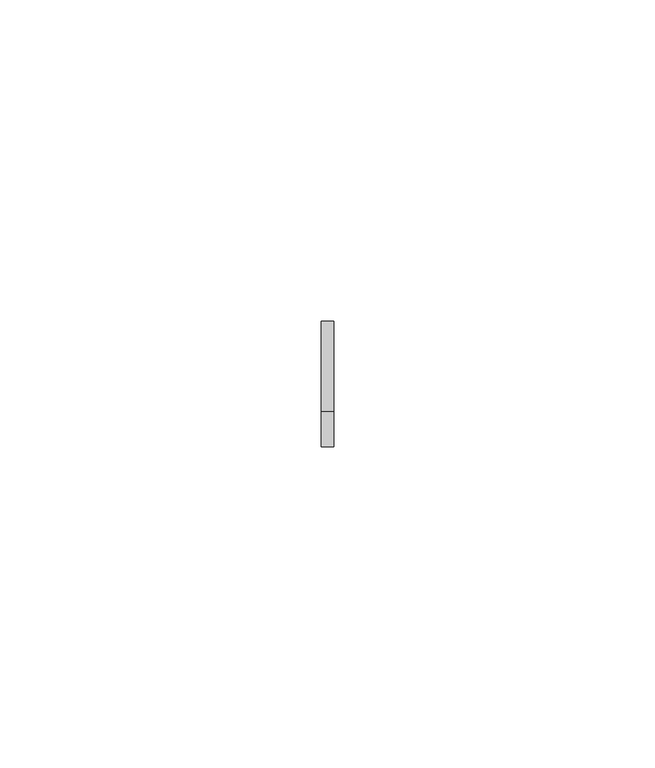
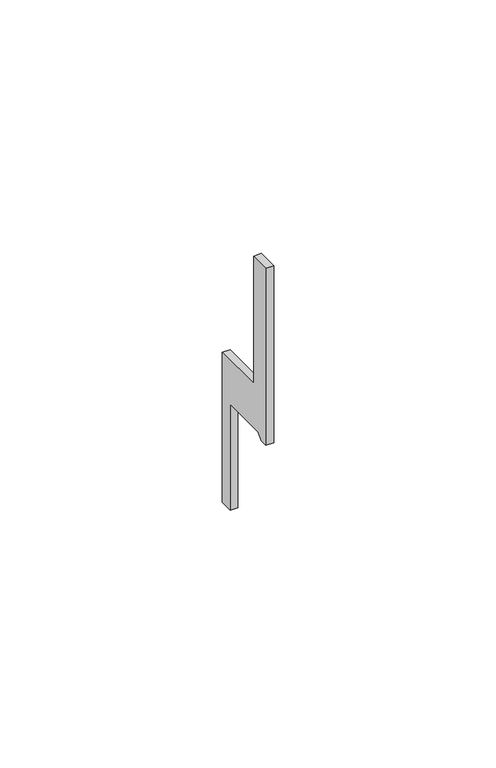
"""IFC4 building model written with IfcOpenShell, lengths in millimetres: proxy geometry, Odbojniki - OPW35 : Odbojniki - OPW35."""

import ifcopenshell
import ifcopenshell.guid

model = None  # the IFC model being written
_history = None  # IfcOwnerHistory: only IFC2X3 demands one
_inside = {}  # id of a spatial element -> (the spatial element, [elements in it])
_under = {}  # id of a project, library or spatial element -> (it, [spatial elements below it])
_declared = {}  # id of a project -> (the project, [libraries it declares])
_typed = {}  # id of a type object -> (the type object, [elements of that type])
_made_of = {}  # id of a material, layer set ... -> (it, [elements and type objects made of it])


def new_model(schema):
    """Start an empty IFC model of exactly this schema.

    Asked for "IFC4X3", IfcOpenShell would pick the latest addendum, in which some entities
    have other attributes; the version numbers below select the first issue.
    IFC2X3 requires an IfcOwnerHistory on every rooted entity: one is made here for all.
    """
    global model, _history
    if schema == "IFC4X3":
        model = ifcopenshell.file(schema_version=(4, 3, 0, 0))
    else:
        model = ifcopenshell.file(schema=schema)
    _inside.clear()
    _under.clear()
    _declared.clear()
    _typed.clear()
    _made_of.clear()
    _history = None
    if model.schema == "IFC2X3":
        org = make("IfcOrganization", Name="unknown")
        user = make(
            "IfcPersonAndOrganization",
            ThePerson=make("IfcPerson", FamilyName="unknown"),
            TheOrganization=org,
        )
        app = make(
            "IfcApplication",
            ApplicationDeveloper=org,
            Version="unknown",
            ApplicationFullName="unknown",
            ApplicationIdentifier="unknown",
        )
        _history = make(
            "IfcOwnerHistory",
            OwningUser=user,
            OwningApplication=app,
            ChangeAction="ADDED",
            CreationDate=0,
        )
    return model


def make(cls, **values):
    """One entity of the class cls with the attributes given. An attribute that is None is left unset."""
    return model.create_entity(
        cls, **{name: value for name, value in values.items() if value is not None}
    )


def rooted(cls, **values):
    """An entity with a GlobalId (a new one), such as an element, a storey or a relation."""
    return make(cls, GlobalId=ifcopenshell.guid.new(), OwnerHistory=_history, **values)


def si_unit(unit_type, name, prefix=None):
    """IfcSIUnit, for example si_unit("LENGTHUNIT", "METRE", prefix="MILLI")."""
    return make("IfcSIUnit", UnitType=unit_type, Prefix=prefix, Name=name)


def assignment(units):
    """IfcUnitAssignment: the units of a project."""
    return None if units is None else make("IfcUnitAssignment", Units=units)


def point(xyz):
    """IfcCartesianPoint."""
    return None if xyz is None else make("IfcCartesianPoint", Coordinates=xyz)


def direction(xyz):
    """IfcDirection."""
    return None if xyz is None else make("IfcDirection", DirectionRatios=xyz)


def frame(location, z_axis=None, x_axis=None):
    """IfcAxis2Placement3D, a coordinate frame: its origin and axes. An axis left out is left unset."""
    return make(
        "IfcAxis2Placement3D",
        Location=point(location),
        Axis=direction(z_axis),
        RefDirection=direction(x_axis),
    )


def origin():
    """The frame at (0, 0, 0) with its axes left unset."""
    return frame((0.0, 0.0, 0.0))


def place(relative_to, where):
    """IfcLocalPlacement: puts the frame where relative to a parent placement (None: the world)."""
    return make(
        "IfcLocalPlacement", PlacementRelTo=relative_to, RelativePlacement=where
    )


def context(
    kind, dimensions, precision=None, world=None, true_north=None, identifier=None
):
    """IfcGeometricRepresentationContext, for example the 3D "Model" context."""
    return make(
        "IfcGeometricRepresentationContext",
        ContextIdentifier=identifier,
        ContextType=kind,
        CoordinateSpaceDimension=dimensions,
        Precision=precision,
        WorldCoordinateSystem=world,
        TrueNorth=true_north,
    )


def project(units=None, contexts=None):
    """IfcProject with its units and contexts."""
    return rooted(
        "IfcProject",
        Name="project",
        RepresentationContexts=contexts,
        UnitsInContext=assignment(units),
    )


def spatial(cls, under=None, at=None, **own):
    """A site, building, storey or space (cls), placed at a placement, below another one or the project."""
    s = rooted(cls, ObjectPlacement=at, **own)
    if under is not None:
        _under.setdefault(under.id(), (under, []))[1].append(s)
    return s


def polyline(points):
    """IfcPolyline through the points."""
    return make("IfcPolyline", Points=[point(p) for p in points])


def outline(outer, holes=None, kind="AREA"):
    """IfcArbitraryClosedProfileDef: a profile drawn as a closed curve; with holes, ...WithVoids."""
    if holes is None:
        return make("IfcArbitraryClosedProfileDef", ProfileType=kind, OuterCurve=outer)
    return make(
        "IfcArbitraryProfileDefWithVoids",
        ProfileType=kind,
        OuterCurve=outer,
        InnerCurves=holes,
    )


def extrude(swept, where, along, depth):
    """IfcExtrudedAreaSolid: the profile swept, set in the frame where, extruded along a direction by depth."""
    return make(
        "IfcExtrudedAreaSolid",
        SweptArea=swept,
        Position=where,
        ExtrudedDirection=direction(along),
        Depth=depth,
    )


def shape(context_of_items, identifier, shape_type, items):
    """IfcShapeRepresentation: the items that make up one representation, for example the "Body"."""
    return make(
        "IfcShapeRepresentation",
        ContextOfItems=context_of_items,
        RepresentationIdentifier=identifier,
        RepresentationType=shape_type,
        Items=items,
    )


def source(mapping_origin, context_of_items, identifier, shape_type, items):
    """IfcRepresentationMap: a shape defined once, which mapped items show again and again."""
    return make(
        "IfcRepresentationMap",
        MappingOrigin=mapping_origin,
        MappedRepresentation=shape(context_of_items, identifier, shape_type, items),
    )


def transform(
    local_origin,
    x_axis=None,
    y_axis=None,
    z_axis=None,
    scale=None,
    scale2=None,
    scale3=None,
    uniform=True,
):
    """IfcCartesianTransformationOperator3D, or its non-uniform kind. x_axis, y_axis, z_axis: its Axis1, 2, 3."""
    if uniform:
        return make(
            "IfcCartesianTransformationOperator3D",
            Axis1=direction(x_axis),
            Axis2=direction(y_axis),
            LocalOrigin=point(local_origin),
            Scale=scale,
            Axis3=direction(z_axis),
        )
    return make(
        "IfcCartesianTransformationOperator3DnonUniform",
        Axis1=direction(x_axis),
        Axis2=direction(y_axis),
        LocalOrigin=point(local_origin),
        Scale=scale,
        Axis3=direction(z_axis),
        Scale2=scale2,
        Scale3=scale3,
    )


def mapped(mapping_source, mapping_target):
    """IfcMappedItem: shows the shape of a source again, moved by a transform."""
    return make(
        "IfcMappedItem", MappingSource=mapping_source, MappingTarget=mapping_target
    )


def made_of(thing, what):
    """Note that an element or type object is made of a material, layer set ...; save() writes the relation."""
    if what is not None:
        _made_of.setdefault(what.id(), (what, []))[1].append(thing)
    return thing


def element(
    cls,
    number,
    at=None,
    inside=None,
    cuts=None,
    type_object=None,
    material=None,
    context=None,
    identifier="Body",
    shape_type=None,
    held_by="IfcProductDefinitionShape",
    body=None,
    shapes=None,
    **own,
):
    """One element of the class cls, such as IfcWall. Its Tag is "e" and its number.

    at: its placement. inside: the storey or other place that contains it. cuts: it is an
    opening in that element (IfcRelVoidsElement). A single representation is given by context,
    identifier, shape_type and body (its items); several are given by shapes. held_by: the class
    of the entity that holds the representations. save() writes the other relations.
    """
    e = rooted(cls, Tag="e%d" % number, ObjectPlacement=at, **own)
    if body is not None:
        shapes = [shape(context, identifier, shape_type, body)]
    if shapes is not None:
        e.Representation = make(held_by, Representations=shapes)
    if inside is not None:
        _inside.setdefault(inside.id(), (inside, []))[1].append(e)
    if cuts is not None:
        rooted(
            "IfcRelVoidsElement", RelatingBuildingElement=cuts, RelatedOpeningElement=e
        )
    if type_object is not None:
        _typed.setdefault(type_object.id(), (type_object, []))[1].append(e)
    return made_of(e, material)


def aggregate(whole, parts):
    """IfcRelAggregates: a whole, such as a stair, and the parts it consists of."""
    return rooted("IfcRelAggregates", RelatingObject=whole, RelatedObjects=parts)


def save(model, path):
    """Write the relations noted so far, then the file.

    IfcRelAggregates (storeys below a building ...), IfcRelContainedInSpatialStructure (elements
    in a storey), IfcRelDefinesByType, IfcRelAssociatesMaterial and IfcRelDeclares: one each for
    every whole, place, type object, material and project.
    """
    for whole, parts in _under.values():
        aggregate(whole, parts)
    for where, things in _inside.values():
        rooted(
            "IfcRelContainedInSpatialStructure",
            RelatedElements=things,
            RelatingStructure=where,
        )
    for kind, things in _typed.values():
        rooted("IfcRelDefinesByType", RelatedObjects=things, RelatingType=kind)
    for what, things in _made_of.values():
        rooted("IfcRelAssociatesMaterial", RelatedObjects=things, RelatingMaterial=what)
    for by, libraries in _declared.values():
        rooted("IfcRelDeclares", RelatingContext=by, RelatedDefinitions=libraries)
    model.write(path)


def generic_models_228bb337(model_context):
    return source(origin(), model_context, "Body", "SweptSolid", [
        extrude(outline(polyline([(16.5452071, 15.1230145), (16.5452071, -26.0769855), (13.0452071, -26.0769855), (13.0452071, 2.9694613), (0.4452071, 2.9694613), (-1.054793, 1.4694612), (-3.054793, 1.4694612), (-3.054793, 50.1230145), (2.4452073, 50.1230145), (2.4452073, 15.1230145), (16.5452071, 15.1230145)])), frame((-3.0, 0.0, 0.0), z_axis=(1.0, 0.0, 0.0), x_axis=(0.0, 1.0, 0.0)), (0.0, 0.0, 1.0), 2.0),
    ])


if __name__ == "__main__":
    model = new_model("IFC4")
    model_context = context("Model", 3, world=origin())
    ifc_project = project(units=[si_unit("LENGTHUNIT", "METRE", prefix="MILLI")], contexts=[model_context])
    site = spatial("IfcSite", under=ifc_project)
    building = spatial("IfcBuilding", under=site)
    placement = place(None, origin())
    generic_models_shape = generic_models_228bb337(model_context)
    element("IfcBuildingElementProxy", 1, Name="Odbojniki - OPW35 : Odbojniki - OPW35", ObjectType="Odbojniki - OPW35 : Odbojniki - OPW35", at=placement, inside=building, context=model_context, shape_type="MappedRepresentation", body=[
        mapped(generic_models_shape, transform((0.0, 0.0, 0.0), x_axis=(1.0, 0.0, 0.0), y_axis=(0.0, 1.0, 0.0), z_axis=(0.0, 0.0, 1.0))),
    ])
    save(model, "model.ifc")
